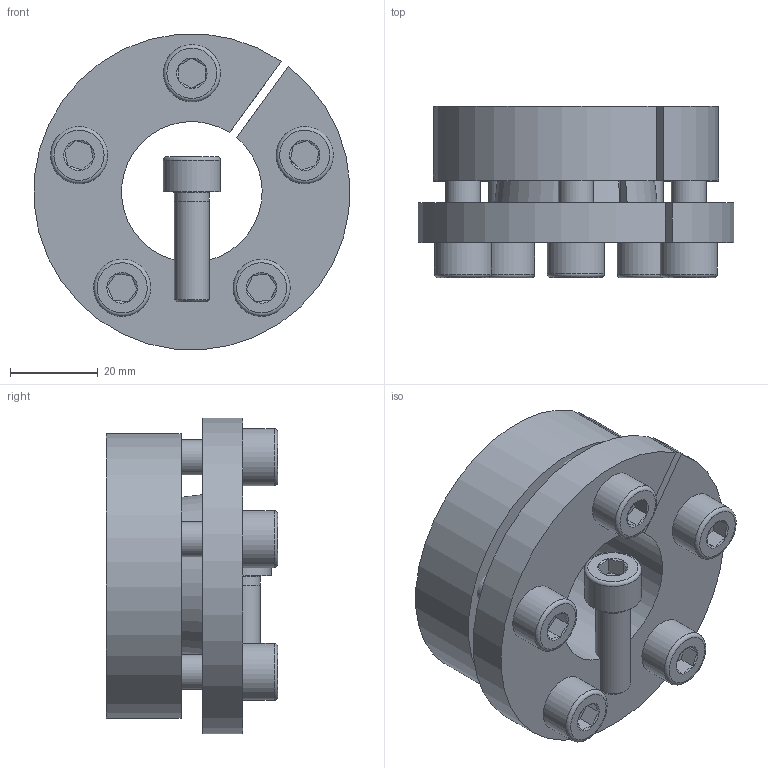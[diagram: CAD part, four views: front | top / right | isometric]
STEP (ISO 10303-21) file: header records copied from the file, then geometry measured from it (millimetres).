
FILE_DESCRIPTION( ( 'Unknown' ), '1' );
FILE_NAME( 'C:/Dokumente und Einstellungen/Sven/Desktop/15/KBS 15 - 32 x 65.stp', 'Unknown', ( 'Unknown' ), ( 'Unknown' ), 'XStep 1.0', 'Unknown', ' ' );
FILE_SCHEMA( ( 'automotive_design' ) );
Length unit declared in the file: millimetre
Products named in the file (3): Assem1; ISO EN DIN 4762 M8x25_14; KBS 15 - 32 x 65_0
Bounding box: 71.85 x 39 x 71.81 mm (x, y, z)
Volume: 146166.7 mm3; surface area: 53943 mm2
Topology: 8 solids, 8 shells, 194 faces, 404 edges, 250 vertices
Faces by surface type: plane 86, cylinder 50, cone 46, torus 12
Full cylindrical faces by diameter (mm): 6.647 x10, 7 x6, 8 x12, 9 x10, 13 x6
Entity records: 1524 total; most frequent: CARTESIAN_POINT 256, DIRECTION 230, ORIENTED_EDGE 170, AXIS2_PLACEMENT_3D 101, EDGE_LOOP 88, EDGE_CURVE 85, FACE_OUTER_BOUND 63, VERTEX_POINT 63
